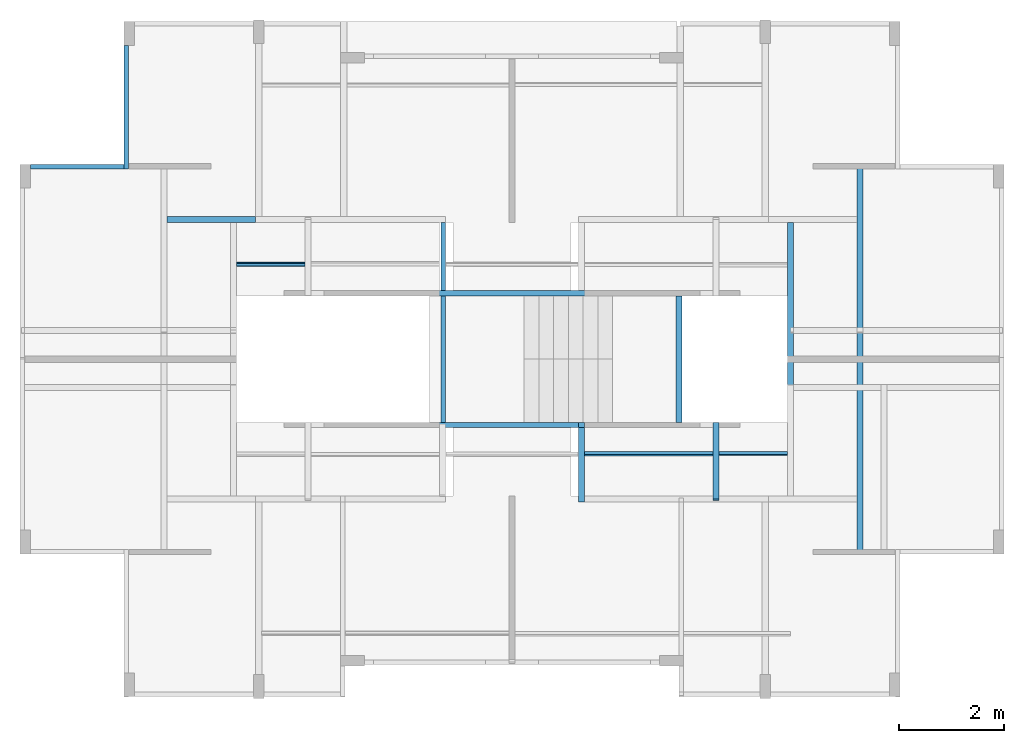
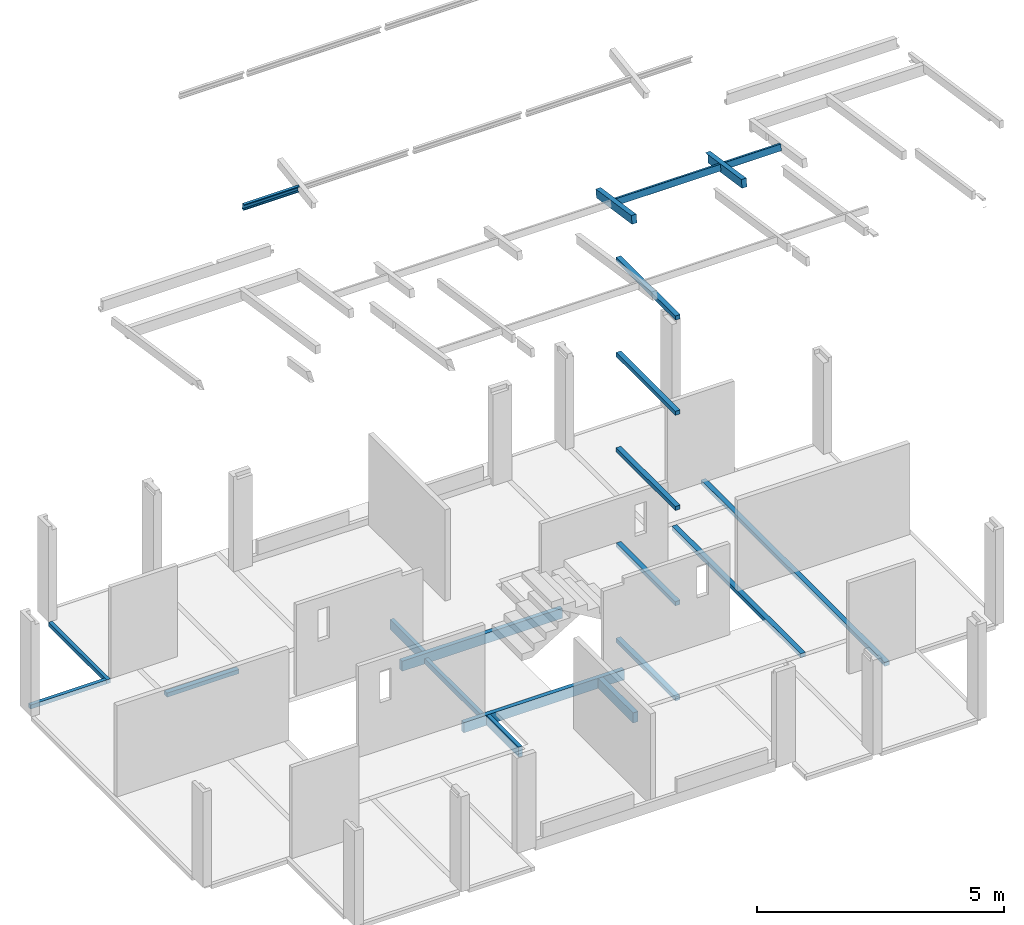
# One storey, part 3 of 9: 19 beams.
"""IFC4 building model written with IfcOpenShell, lengths in metres."""

from ifc_helpers import new_model, entity, si_unit, converted_unit, derived_unit, direction, frame, origin, place, context, subcontext, project, spatial, line, arc, indexed_curve, outline, extrude, source, transform, mapped, material, type_object, type_shapes, element, save


model = new_model("IFC4")

# Units and contexts
model_context = context("Model", 3, precision=1e-05, world=origin(), true_north=direction((6.123031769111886e-17, 1.0)))
body_context = subcontext(model_context, "Body", "Model", "MODEL_VIEW")
ifc_project = project(units=[si_unit("LENGTHUNIT", "METRE"), si_unit("AREAUNIT", "SQUARE_METRE"), si_unit("VOLUMEUNIT", "CUBIC_METRE"), converted_unit("PLANEANGLEUNIT", "DEGREE", entity("IfcRatioMeasure", 0.017453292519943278), si_unit("PLANEANGLEUNIT", "RADIAN"), dimensions=[0, 0, 0, 0, 0, 0, 0]), si_unit("MASSUNIT", "GRAM", prefix="KILO"), derived_unit("MASSDENSITYUNIT", [(si_unit("MASSUNIT", "GRAM", prefix="KILO"), 1), (si_unit("LENGTHUNIT", "METRE"), -3)]), derived_unit("IONCONCENTRATIONUNIT", [(si_unit("MASSUNIT", "GRAM", prefix="KILO"), 1), (si_unit("LENGTHUNIT", "METRE"), -3)]), derived_unit("MOMENTOFINERTIAUNIT", [(si_unit("LENGTHUNIT", "METRE"), 4)]), si_unit("TIMEUNIT", "SECOND"), si_unit("FREQUENCYUNIT", "HERTZ"), si_unit("THERMODYNAMICTEMPERATUREUNIT", "DEGREE_CELSIUS"), derived_unit("THERMALTRANSMITTANCEUNIT", [(si_unit("MASSUNIT", "GRAM", prefix="KILO"), 1), (si_unit("THERMODYNAMICTEMPERATUREUNIT", "KELVIN"), -1), (si_unit("TIMEUNIT", "SECOND"), -3)]), derived_unit("THERMALCONDUCTANCEUNIT", [(si_unit("MASSUNIT", "GRAM", prefix="KILO"), 1), (si_unit("THERMODYNAMICTEMPERATUREUNIT", "KELVIN"), -1), (si_unit("TIMEUNIT", "SECOND"), -3), (si_unit("LENGTHUNIT", "METRE"), 1)]), derived_unit("VOLUMETRICFLOWRATEUNIT", [(si_unit("LENGTHUNIT", "METRE"), 3), (si_unit("TIMEUNIT", "SECOND"), -1)]), derived_unit("MASSFLOWRATEUNIT", [(si_unit("MASSUNIT", "GRAM", prefix="KILO"), 1), (si_unit("TIMEUNIT", "SECOND"), -1)]), derived_unit("ROTATIONALFREQUENCYUNIT", [(si_unit("TIMEUNIT", "SECOND"), -1)]), si_unit("ELECTRICCURRENTUNIT", "AMPERE"), si_unit("ELECTRICVOLTAGEUNIT", "VOLT"), si_unit("POWERUNIT", "WATT"), si_unit("FORCEUNIT", "NEWTON", prefix="KILO"), si_unit("ILLUMINANCEUNIT", "LUX"), si_unit("LUMINOUSFLUXUNIT", "LUMEN"), si_unit("LUMINOUSINTENSITYUNIT", "CANDELA"), derived_unit("USERDEFINED", [(si_unit("MASSUNIT", "GRAM", prefix="KILO"), -1), (si_unit("LENGTHUNIT", "METRE"), -2), (si_unit("TIMEUNIT", "SECOND"), 3), (si_unit("LUMINOUSFLUXUNIT", "LUMEN"), 1)]), derived_unit("USERDEFINED", [(si_unit("MASSUNIT", "GRAM", prefix="KILO"), 1), (si_unit("TIMEUNIT", "SECOND"), -3), (si_unit("LENGTHUNIT", "METRE"), 3), (si_unit("ELECTRICCURRENTUNIT", "AMPERE"), -2)]), derived_unit("SOUNDPOWERUNIT", [(si_unit("MASSUNIT", "GRAM", prefix="KILO"), 1), (si_unit("TIMEUNIT", "SECOND"), -3), (si_unit("LENGTHUNIT", "METRE"), 2)]), derived_unit("SOUNDPRESSUREUNIT", [(si_unit("MASSUNIT", "GRAM", prefix="KILO"), 1), (si_unit("LENGTHUNIT", "METRE"), -1), (si_unit("TIMEUNIT", "SECOND"), -2)]), derived_unit("LINEARVELOCITYUNIT", [(si_unit("LENGTHUNIT", "METRE"), 1), (si_unit("TIMEUNIT", "SECOND"), -1)]), si_unit("PRESSUREUNIT", "PASCAL"), derived_unit("USERDEFINED", [(si_unit("MASSUNIT", "GRAM", prefix="KILO"), 1), (si_unit("LENGTHUNIT", "METRE"), -2), (si_unit("TIMEUNIT", "SECOND"), -2)]), derived_unit("LINEARFORCEUNIT", [(si_unit("MASSUNIT", "GRAM", prefix="KILO"), 1), (si_unit("TIMEUNIT", "SECOND"), -2)]), derived_unit("PLANARFORCEUNIT", [(si_unit("MASSUNIT", "GRAM", prefix="KILO"), 1), (si_unit("LENGTHUNIT", "METRE"), -1), (si_unit("TIMEUNIT", "SECOND"), -2)]), derived_unit("SPECIFICHEATCAPACITYUNIT", [(si_unit("THERMODYNAMICTEMPERATUREUNIT", "KELVIN"), -1), (si_unit("LENGTHUNIT", "METRE"), 2), (si_unit("TIMEUNIT", "SECOND"), -2)]), derived_unit("HEATINGVALUEUNIT", [(si_unit("LENGTHUNIT", "METRE"), 2), (si_unit("TIMEUNIT", "SECOND"), -2)]), derived_unit("VAPORPERMEABILITYUNIT", [(si_unit("LENGTHUNIT", "METRE"), -1), (si_unit("TIMEUNIT", "SECOND"), 1)]), derived_unit("DYNAMICVISCOSITYUNIT", [(si_unit("MASSUNIT", "GRAM", prefix="KILO"), 1), (si_unit("TIMEUNIT", "SECOND"), -1), (si_unit("LENGTHUNIT", "METRE"), -1)]), derived_unit("THERMALEXPANSIONCOEFFICIENTUNIT", [(si_unit("THERMODYNAMICTEMPERATUREUNIT", "KELVIN"), -1)]), derived_unit("MODULUSOFELASTICITYUNIT", [(si_unit("MASSUNIT", "GRAM", prefix="KILO"), 1), (si_unit("LENGTHUNIT", "METRE"), -1), (si_unit("TIMEUNIT", "SECOND"), -2)]), derived_unit("ISOTHERMALMOISTURECAPACITYUNIT", [(si_unit("LENGTHUNIT", "METRE"), 3), (si_unit("MASSUNIT", "GRAM", prefix="KILO"), -1)]), derived_unit("MOISTUREDIFFUSIVITYUNIT", [(si_unit("TIMEUNIT", "SECOND"), -1), (si_unit("LENGTHUNIT", "METRE"), 2)])], contexts=[model_context])

# Site, building, storey
site_placement = place(None, origin())
site = spatial("IfcSite", under=ifc_project, at=site_placement, Name="Default", CompositionType="ELEMENT")
building_placement = place(site_placement, origin())
building = spatial("IfcBuilding", under=site, at=building_placement, Name="Las nubes", CompositionType="ELEMENT")
storey_placement = place(building_placement, frame((0.0, 0.0, 2.3500000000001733)))
storey = spatial("IfcBuildingStorey", under=building, at=storey_placement, Name="PISO 2", CompositionType="ELEMENT", Elevation=2.3500000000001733)

# Beams
ifc_material_1 = material(Name="Concrete - Cast-in-Place Concrete - 35 MPa", Category="Materials")
beam_type_1 = type_object("IfcBeamType", Name="M_Concrete-Rectangular Beam:(0.10x0.25)", PredefinedType="BEAM", material=ifc_material_1)
shared_shape_1 = source(origin(), body_context, "Body", "SweptSolid", [
    extrude(outline(indexed_curve([(-0.12500000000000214, -0.04999999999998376), (0.12499999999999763, -0.05000000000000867), (0.1250000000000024, 0.04999999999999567), (-0.12499999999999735, 0.05000000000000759), (-0.12500000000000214, -0.04999999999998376)], self_intersect=False)), frame((7.447500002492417, -7.675000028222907, 2.2250000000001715), z_axis=(1.0, 0.0, 0.0), x_axis=(0.0, 0.0, -1.0)), (0.0, 0.0, 1.0), 3.745522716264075),
])
type_shapes(beam_type_1, [shared_shape_1])
beam_1_placement = place(storey_placement, frame((0.0, 0.0, -2.3500000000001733)))
element("IfcBeam", 1, at=beam_1_placement, inside=storey, type_object=beam_type_1, material=ifc_material_1, Name="M_Concrete-Rectangular Beam:(0.10x0.25)", ObjectType="M_Concrete-Rectangular Beam:(0.10x0.25)", PredefinedType="BEAM", context=body_context, shape_type="MappedRepresentation", body=[
    mapped(shared_shape_1, transform((0.0, 0.0, 0.0), scale=1.0)),
])
beam_type_2 = type_object("IfcBeamType", Name="M_Concrete-Rectangular Beam:(0.10x0.25)", PredefinedType="BEAM", material=ifc_material_1)
shared_shape_2 = source(origin(), body_context, "Body", "SweptSolid", [
    extrude(outline(indexed_curve([(-0.12500000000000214, -0.04999999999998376), (0.12499999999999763, -0.05000000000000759), (0.1250000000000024, 0.049999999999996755), (-0.12499999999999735, 0.05000000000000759), (-0.12500000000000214, -0.04999999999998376)], self_intersect=False)), frame((7.447500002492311, -5.175000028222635, 2.2250000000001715), z_axis=(1.0, 0.0, 0.0), x_axis=(0.0, 0.0, -1.0)), (0.0, 0.0, 1.0), 3.750000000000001),
])
type_shapes(beam_type_2, [shared_shape_2])
beam_2_placement = place(storey_placement, frame((0.0, 0.0, -2.3500000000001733)))
element("IfcBeam", 2, at=beam_2_placement, inside=storey, type_object=beam_type_2, material=ifc_material_1, Name="M_Concrete-Rectangular Beam:(0.10x0.25)", ObjectType="M_Concrete-Rectangular Beam:(0.10x0.25)", PredefinedType="BEAM", context=body_context, shape_type="MappedRepresentation", body=[
    mapped(shared_shape_2, transform((0.0, 0.0, 0.0), scale=1.0)),
])
ifc_material_2 = material(Name="Concrete, Cast In Situ", Category="Materials")
beam_type_3 = type_object("IfcBeamType", Name="M_Concrete-Rectangular Beam:(0.085x0.10)", PredefinedType="BEAM", material=ifc_material_2)
shared_shape_3 = source(origin(), body_context, "Body", "SweptSolid", [
    extrude(outline(indexed_curve([(-0.04250000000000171, -0.05), (0.04250000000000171, -0.05), (0.04250000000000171, 0.05), (-0.04250000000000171, 0.05), (-0.04250000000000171, -0.05)], self_intersect=False)), frame((1.9899999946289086, -2.810000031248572, 2.3000000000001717), z_axis=(0.0, 1.0, 0.0), x_axis=(-1.0, 0.0, 0.0)), (0.0, 0.0, 1.0), 2.3500000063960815),
])
type_shapes(beam_type_3, [shared_shape_3])
beam_3_placement = place(storey_placement, frame((0.0, 0.0, -2.3500000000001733)))
element("IfcBeam", 3, at=beam_3_placement, inside=storey, type_object=beam_type_3, material=ifc_material_2, Name="M_Concrete-Rectangular Beam:(0.085x0.10)", ObjectType="M_Concrete-Rectangular Beam:(0.085x0.10)", PredefinedType="BEAM", context=body_context, shape_type="MappedRepresentation", body=[
    mapped(shared_shape_3, transform((0.0, 0.0, 0.0), scale=1.0)),
])
beam_type_4 = type_object("IfcBeamType", Name="M_Concrete-Rectangular Beam:(0.085x0.25)", PredefinedType="BEAM", material=ifc_material_2)
shared_shape_4 = source(origin(), body_context, "Body", "SweptSolid", [
    extrude(outline(indexed_curve([(-0.04250000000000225, -0.125), (0.04250000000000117, -0.125), (0.04250000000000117, 0.12499999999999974), (-0.04250000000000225, 0.12499999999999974), (-0.04250000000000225, -0.125)], self_intersect=False)), frame((8.020000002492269, -5.125000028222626, 2.2250000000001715), z_axis=(0.0, 1.0, 0.0), x_axis=(-1.0, 0.0, 0.0)), (0.0, 0.0, 1.0), 1.3000000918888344),
    extrude(outline(indexed_curve([(-0.04250000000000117, -0.125), (0.04250000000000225, -0.125), (0.04250000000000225, 0.12499999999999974), (-0.04250000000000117, 0.12499999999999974), (-0.04250000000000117, -0.125)], self_intersect=False)), frame((8.020000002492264, -9.025000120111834, 2.2250000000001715), z_axis=(0.0, 1.0, 0.0), x_axis=(-1.0, 0.0, 0.0)), (0.0, 0.0, 1.0), 1.3000000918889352),
    extrude(outline(indexed_curve([(-0.04250000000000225, -0.06500000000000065), (0.04250000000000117, -0.06500000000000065), (0.042500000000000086, 0.06500000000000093), (-0.04250000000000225, 0.06500000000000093), (-0.04250000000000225, -0.06500000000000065)], self_intersect=False)), frame((8.020000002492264, -7.6250000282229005, 2.1650000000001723), z_axis=(0.0, 1.0, 0.0), x_axis=(-1.0, 0.0, 0.0)), (0.0, 0.0, 1.0), 2.4000000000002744),
])
type_shapes(beam_type_4, [shared_shape_4])
beam_4_placement = place(storey_placement, frame((0.0, 0.0, -2.3500000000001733)))
element("IfcBeam", 4, at=beam_4_placement, inside=storey, type_object=beam_type_4, material=ifc_material_2, Name="M_Concrete-Rectangular Beam:(0.085x0.25)", ObjectType="M_Concrete-Rectangular Beam:(0.085x0.25)", PredefinedType="BEAM", context=body_context, shape_type="MappedRepresentation", body=[
    mapped(shared_shape_4, transform((0.0, 0.0, 0.0), scale=1.0)),
])
beam_type_5 = type_object("IfcBeamType", Name="M_Concrete-Rectangular Beam:(0.115x0.25)", PredefinedType="BEAM", material=ifc_material_2)
shared_shape_5 = source(origin(), body_context, "Body", "SweptSolid", [
    extrude(outline(indexed_curve([(-0.05750000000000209, -0.125), (0.05750000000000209, -0.125), (0.05750000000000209, 0.12499999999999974), (-0.05750000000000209, 0.12499999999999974), (-0.05750000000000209, -0.125)], self_intersect=False)), frame((10.63999999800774, -9.140000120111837, 2.2250000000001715), z_axis=(0.0, 1.0, 0.0), x_axis=(-1.0, 0.0, 0.0)), (0.0, 0.0, 1.0), 1.4150000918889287),
])
type_shapes(beam_type_5, [shared_shape_5])
beam_5_placement = place(storey_placement, frame((0.0, 0.0, -2.3500000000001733)))
element("IfcBeam", 5, at=beam_5_placement, inside=storey, type_object=beam_type_5, material=ifc_material_2, Name="M_Concrete-Rectangular Beam:(0.115x0.25)", ObjectType="M_Concrete-Rectangular Beam:(0.115x0.25)", PredefinedType="BEAM", context=body_context, shape_type="MappedRepresentation", body=[
    mapped(shared_shape_5, transform((0.0, 0.0, 0.0), scale=1.0)),
])
beam_type_6 = type_object("IfcBeamType", Name="M_Concrete-Rectangular Beam:(0.115x0.10)", PredefinedType="BEAM", material=ifc_material_2)
shared_shape_6 = source(origin(), body_context, "Body", "SweptSolid", [
    extrude(outline(indexed_curve([(-0.05000000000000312, -0.057499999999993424), (0.049999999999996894, -0.057500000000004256), (0.05000000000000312, 0.057499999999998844), (-0.049999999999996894, 0.057500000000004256), (-0.05000000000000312, -0.057499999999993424)], self_intersect=False)), frame((4.452499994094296, -3.7675000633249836, 2.3000000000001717), z_axis=(-1.0, 0.0, 0.0), x_axis=(0.0, 0.0, -1.0)), (0.0, 0.0, 1.0), 1.6849989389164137),
])
type_shapes(beam_type_6, [shared_shape_6])
beam_6_placement = place(storey_placement, frame((0.0, 0.0, -2.3500000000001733)))
element("IfcBeam", 6, at=beam_6_placement, inside=storey, type_object=beam_type_6, material=ifc_material_2, Name="M_Concrete-Rectangular Beam:(0.115x0.10)", ObjectType="M_Concrete-Rectangular Beam:(0.115x0.10)", PredefinedType="BEAM", context=body_context, shape_type="MappedRepresentation", body=[
    mapped(shared_shape_6, transform((0.0, 0.0, 0.0), scale=1.0)),
])
beam_type_7 = type_object("IfcBeamType", Name="M_Concrete-Rectangular Beam:(0.115x0.10)", PredefinedType="BEAM", material=ifc_material_2)
shared_shape_7 = source(origin(), body_context, "Body", "SweptSolid", [
    extrude(outline(indexed_curve([(-0.057500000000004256, -0.05), (0.05750000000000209, -0.05), (0.05750000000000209, 0.05), (-0.05750000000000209, 0.05), (-0.057500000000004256, -0.05)], self_intersect=False)), frame((15.934998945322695, -10.14000003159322, 2.3000000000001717), z_axis=(0.0, 1.0, 0.0), x_axis=(-1.0, 0.0, 0.0)), (0.0, 0.0, 1.0), 7.430000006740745),
])
type_shapes(beam_type_7, [shared_shape_7])
beam_7_placement = place(storey_placement, frame((0.0, 0.0, -2.3500000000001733)))
element("IfcBeam", 7, at=beam_7_placement, inside=storey, type_object=beam_type_7, material=ifc_material_2, Name="M_Concrete-Rectangular Beam:(0.115x0.10)", ObjectType="M_Concrete-Rectangular Beam:(0.115x0.10)", PredefinedType="BEAM", context=body_context, shape_type="MappedRepresentation", body=[
    mapped(shared_shape_7, transform((0.0, 0.0, 0.0), scale=1.0)),
])
beam_type_8 = type_object("IfcBeamType", Name="M_Concrete-Rectangular Beam:(0.115x0.10)", PredefinedType="BEAM", material=ifc_material_2)
shared_shape_8 = source(origin(), body_context, "Body", "SweptSolid", [
    extrude(outline(indexed_curve([(-0.05750000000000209, -0.05), (0.05750000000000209, -0.05), (0.05750000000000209, 0.05), (-0.05750000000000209, 0.05), (-0.05750000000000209, -0.05)], self_intersect=False)), frame((14.615000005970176, -9.025000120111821, 2.3000000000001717), z_axis=(0.0, 1.0, 0.0), x_axis=(-1.0, 0.0, 0.0)), (0.0, 0.0, 1.0), 5.200000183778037),
])
type_shapes(beam_type_8, [shared_shape_8])
beam_8_placement = place(storey_placement, frame((0.0, 0.0, -2.3500000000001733)))
element("IfcBeam", 8, at=beam_8_placement, inside=storey, type_object=beam_type_8, material=ifc_material_2, Name="M_Concrete-Rectangular Beam:(0.115x0.10)", ObjectType="M_Concrete-Rectangular Beam:(0.115x0.10)", PredefinedType="BEAM", context=body_context, shape_type="MappedRepresentation", body=[
    mapped(shared_shape_8, transform((0.0, 0.0, 0.0), scale=1.0)),
])
beam_type_9 = type_object("IfcBeamType", Name="M_Concrete-Rectangular Beam:(0.085x0.10)", PredefinedType="BEAM", material=ifc_material_2)
shared_shape_9 = source(origin(), body_context, "Body", "SweptSolid", [
    extrude(outline(indexed_curve([(-0.050000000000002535, -0.042499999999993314), (0.04999999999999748, -0.04250000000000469), (0.050000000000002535, 0.04249999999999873), (-0.04999999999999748, 0.04250000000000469), (-0.050000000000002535, -0.042499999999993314)], self_intersect=False)), frame((0.17250000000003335, -2.7675000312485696, 2.3000000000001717), z_axis=(1.0, 0.0, 0.0), x_axis=(0.0, 0.0, -1.0)), (0.0, 0.0, 1.0), 1.7749999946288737),
])
type_shapes(beam_type_9, [shared_shape_9])
beam_9_placement = place(storey_placement, frame((0.0, 0.0, -2.3500000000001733)))
element("IfcBeam", 9, at=beam_9_placement, inside=storey, type_object=beam_type_9, material=ifc_material_2, Name="M_Concrete-Rectangular Beam:(0.085x0.10)", ObjectType="M_Concrete-Rectangular Beam:(0.085x0.10)", PredefinedType="BEAM", context=body_context, shape_type="MappedRepresentation", body=[
    mapped(shared_shape_9, transform((0.0, 0.0, 0.0), scale=1.0)),
])
beam_type_10 = type_object("IfcBeamType", Name="M_Concrete-Rectangular Beam:(0.115x0.20)", PredefinedType="BEAM", material=ifc_material_2)
shared_shape_10 = source(origin(), body_context, "Body", "SweptSolid", [
    extrude(outline(indexed_curve([(-0.1000000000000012, -0.05750000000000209), (0.09999999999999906, -0.05750000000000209), (0.09999999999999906, 0.05750000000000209), (-0.1000000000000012, 0.057499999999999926), (-0.1000000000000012, -0.05750000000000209)], self_intersect=False)), frame((10.639999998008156, -7.642358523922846, 14.267610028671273), z_axis=(0.0, -0.9889363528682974, 0.14834045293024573), x_axis=(0.0, -0.14834045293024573, -0.9889363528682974)), (0.0, 0.0, 1.0), 1.4562529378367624),
])
type_shapes(beam_type_10, [shared_shape_10])
beam_10_placement = place(storey_placement, frame((0.0, 0.0, -2.3500000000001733)))
element("IfcBeam", 10, at=beam_10_placement, inside=storey, type_object=beam_type_10, material=ifc_material_2, Name="M_Concrete-Rectangular Beam:(0.115x0.20)", ObjectType="M_Concrete-Rectangular Beam:(0.115x0.20)", PredefinedType="BEAM", context=body_context, shape_type="MappedRepresentation", body=[
    mapped(shared_shape_10, transform((0.0, 0.0, 0.0), scale=1.0)),
])
beam_type_11 = type_object("IfcBeamType", Name="M_Concrete-Rectangular Beam:(0.115x0.20)", PredefinedType="BEAM", material=ifc_material_2)
shared_shape_11 = source(origin(), body_context, "Body", "SweptSolid", [
    extrude(outline(indexed_curve([(-0.8503153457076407, -0.1170282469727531), (0.5523715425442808, -0.11702824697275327), (0.5246003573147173, 0.06811298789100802), (0.6236587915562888, 0.08297175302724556), (-0.8503153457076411, 0.082971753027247), (-0.8503153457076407, -0.1170282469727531)], self_intersect=False)), frame((13.142500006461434, -8.253900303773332, 14.376560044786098), z_axis=(1.0, 0.0, 0.0), x_axis=(0.0, 0.9889363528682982, -0.14834045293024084)), (0.0, 0.0, 1.0), 0.11500000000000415),
])
type_shapes(beam_type_11, [shared_shape_11])
beam_11_placement = place(storey_placement, frame((0.0, 0.0, -2.3500000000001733)))
element("IfcBeam", 11, at=beam_11_placement, inside=storey, type_object=beam_type_11, material=ifc_material_2, Name="M_Concrete-Rectangular Beam:(0.115x0.20)", ObjectType="M_Concrete-Rectangular Beam:(0.115x0.20)", PredefinedType="BEAM", context=body_context, shape_type="MappedRepresentation", body=[
    mapped(shared_shape_11, transform((0.0, 0.0, 0.0), scale=1.0)),
])
beam_type_12 = type_object("IfcBeamType", Name="M_Concrete-Rectangular Beam:(0.115x0.10)", PredefinedType="BEAM", material=ifc_material_2)
shared_shape_12 = source(origin(), body_context, "Body", "SweptSolid", [
    extrude(outline(indexed_curve([(-0.05750000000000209, -0.05), (0.05750000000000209, -0.05), (0.05750000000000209, 0.05), (-0.05750000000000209, 0.05), (-0.05750000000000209, -0.05)], self_intersect=False)), frame((12.50000000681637, -5.225000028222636, 1.1249999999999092), z_axis=(0.0, -1.0, 0.0), x_axis=(-1.0, 0.0, 0.0)), (0.0, 0.0, 1.0), 2.4000000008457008),
])
type_shapes(beam_type_12, [shared_shape_12])
beam_12_placement = place(storey_placement, frame((0.0, 0.0, -2.3500000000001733)))
element("IfcBeam", 12, at=beam_12_placement, inside=storey, type_object=beam_type_12, material=ifc_material_2, Name="M_Concrete-Rectangular Beam:(0.115x0.10)", ObjectType="M_Concrete-Rectangular Beam:(0.115x0.10)", PredefinedType="BEAM", context=body_context, shape_type="MappedRepresentation", body=[
    mapped(shared_shape_12, transform((0.0, 0.0, 0.0), scale=1.0)),
])
beam_type_13 = type_object("IfcBeamType", Name="M_Concrete-Rectangular Beam:(0.115x0.10)", PredefinedType="BEAM", material=ifc_material_2)
shared_shape_13 = source(origin(), body_context, "Body", "SweptSolid", [
    extrude(outline(indexed_curve([(-0.05750000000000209, -0.04999999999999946), (0.05750000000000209, -0.04999999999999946), (0.05750000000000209, 0.050000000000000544), (-0.05750000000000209, 0.04999999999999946), (-0.05750000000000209, -0.04999999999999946)], self_intersect=False)), frame((12.50000000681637, -5.225000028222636, 5.825000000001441), z_axis=(0.0, -1.0, 0.0), x_axis=(-1.0, 0.0, 0.0)), (0.0, 0.0, 1.0), 2.4000000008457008),
])
type_shapes(beam_type_13, [shared_shape_13])
beam_13_placement = place(storey_placement, frame((0.0, 0.0, -2.3500000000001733)))
element("IfcBeam", 13, at=beam_13_placement, inside=storey, type_object=beam_type_13, material=ifc_material_2, Name="M_Concrete-Rectangular Beam:(0.115x0.10)", ObjectType="M_Concrete-Rectangular Beam:(0.115x0.10)", PredefinedType="BEAM", context=body_context, shape_type="MappedRepresentation", body=[
    mapped(shared_shape_13, transform((0.0, 0.0, 0.0), scale=1.0)),
])
beam_type_14 = type_object("IfcBeamType", Name="M_Concrete-Rectangular Beam:(0.115x0.10)", PredefinedType="BEAM", material=ifc_material_2)
shared_shape_14 = source(origin(), body_context, "Body", "SweptSolid", [
    extrude(outline(indexed_curve([(-0.05750000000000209, -0.04999999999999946), (0.05750000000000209, -0.04999999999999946), (0.05750000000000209, 0.050000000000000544), (-0.05750000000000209, 0.04999999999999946), (-0.05750000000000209, -0.04999999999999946)], self_intersect=False)), frame((12.50000000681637, -5.225000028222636, 8.175000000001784), z_axis=(0.0, -1.0, 0.0), x_axis=(-1.0, 0.0, 0.0)), (0.0, 0.0, 1.0), 2.4000000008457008),
])
type_shapes(beam_type_14, [shared_shape_14])
beam_14_placement = place(storey_placement, frame((0.0, 0.0, -2.3500000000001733)))
element("IfcBeam", 14, at=beam_14_placement, inside=storey, type_object=beam_type_14, material=ifc_material_2, Name="M_Concrete-Rectangular Beam:(0.115x0.10)", ObjectType="M_Concrete-Rectangular Beam:(0.115x0.10)", PredefinedType="BEAM", context=body_context, shape_type="MappedRepresentation", body=[
    mapped(shared_shape_14, transform((0.0, 0.0, 0.0), scale=1.0)),
])
beam_type_15 = type_object("IfcBeamType", Name="M_Concrete-Rectangular Beam:(0.115x0.10)", PredefinedType="BEAM", material=ifc_material_2)
shared_shape_15 = source(origin(), body_context, "Body", "SweptSolid", [
    extrude(outline(indexed_curve([(-0.05750000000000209, -0.050000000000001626), (0.05750000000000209, -0.04999999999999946), (0.05750000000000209, 0.04999999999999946), (-0.05750000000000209, 0.04999999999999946), (-0.05750000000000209, -0.050000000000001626)], self_intersect=False)), frame((12.50000000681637, -5.225000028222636, 10.525000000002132), z_axis=(0.0, -1.0, 0.0), x_axis=(-1.0, 0.0, 0.0)), (0.0, 0.0, 1.0), 2.4000000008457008),
])
type_shapes(beam_type_15, [shared_shape_15])
beam_15_placement = place(storey_placement, frame((0.0, 0.0, -2.3500000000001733)))
element("IfcBeam", 15, at=beam_15_placement, inside=storey, type_object=beam_type_15, material=ifc_material_2, Name="M_Concrete-Rectangular Beam:(0.115x0.10)", ObjectType="M_Concrete-Rectangular Beam:(0.115x0.10)", PredefinedType="BEAM", context=body_context, shape_type="MappedRepresentation", body=[
    mapped(shared_shape_15, transform((0.0, 0.0, 0.0), scale=1.0)),
])
beam_type_16 = type_object("IfcBeamType", Name="M_Concrete-Rectangular Beam:(0.115x0.10)", PredefinedType="BEAM", material=ifc_material_2)
shared_shape_16 = source(origin(), body_context, "Body", "SweptSolid", [
    extrude(outline(indexed_curve([(-0.05750000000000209, -0.05), (0.05750000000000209, -0.05), (0.05750000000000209, 0.05), (-0.05750000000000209, 0.05), (-0.05750000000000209, -0.05)], self_intersect=False)), frame((12.50000000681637, -5.225000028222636, 3.47500000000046), z_axis=(0.0, -1.0, 0.0), x_axis=(-1.0, 0.0, 0.0)), (0.0, 0.0, 1.0), 2.4000000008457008),
])
type_shapes(beam_type_16, [shared_shape_16])
beam_16_placement = place(storey_placement, frame((0.0, 0.0, -2.3500000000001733)))
element("IfcBeam", 16, at=beam_16_placement, inside=storey, type_object=beam_type_16, material=ifc_material_2, Name="M_Concrete-Rectangular Beam:(0.115x0.10)", ObjectType="M_Concrete-Rectangular Beam:(0.115x0.10)", PredefinedType="BEAM", context=body_context, shape_type="MappedRepresentation", body=[
    mapped(shared_shape_16, transform((0.0, 0.0, 0.0), scale=1.0)),
])
ifc_material_3 = material(Name="Steel - 300+", Category="Materials")
beam_type_17 = type_object("IfcBeamType", Name="AUS-C Purlin:CR-1", PredefinedType="BEAM", material=ifc_material_3)
shared_shape_17 = source(origin(), body_context, "Body", "SweptSolid", [
    extrude(outline(indexed_curve([(-0.0761499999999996, -0.03615000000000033), (0.07334999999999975, -0.036150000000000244), (0.07829974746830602, -0.03409974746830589), (0.08035000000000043, -0.02914999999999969), (0.08035000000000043, 0.020350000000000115), (0.07932487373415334, 0.022824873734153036), (0.07685000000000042, 0.023850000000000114), (0.06034999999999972, 0.023850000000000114), (0.06034999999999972, 0.02185000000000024), (0.07684999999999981, 0.02185000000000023), (0.07791066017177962, 0.02141066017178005), (0.07834999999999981, 0.020350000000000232), (0.07834999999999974, -0.029150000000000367), (0.07688553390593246, -0.032685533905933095), (0.0733499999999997, -0.03415000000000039), (-0.0761500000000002, -0.03415000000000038), (-0.07721066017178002, -0.033710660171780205), (-0.0776500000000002, -0.03265000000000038), (-0.0776500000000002, 0.02035000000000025), (-0.07721066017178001, 0.021410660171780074), (-0.0761500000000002, 0.02185000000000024), (-0.059650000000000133, 0.02185000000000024), (-0.059650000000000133, 0.023850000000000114), (-0.0761499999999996, 0.023850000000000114), (-0.07862487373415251, 0.02282487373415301), (-0.07964999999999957, 0.020350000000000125), (-0.07964999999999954, -0.032650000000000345), (-0.07862487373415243, -0.03512487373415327)], segments=[line(1, 2), arc(2, 3, 4), line(4, 5), arc(5, 6, 7), line(7, 8, 9, 10), arc(10, 11, 12), line(12, 13), arc(13, 14, 15), line(15, 16), arc(16, 17, 18), line(18, 19), arc(19, 20, 21), line(21, 22, 23, 24), arc(24, 25, 26), line(26, 27), arc(27, 28, 1)], self_intersect=False)), frame((-1.221751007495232, 0.03415000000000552, 0.00034999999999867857), z_axis=(1.0, 0.0, 0.0), x_axis=(0.0, 0.0, -1.0)), (0.0, 0.0, 1.0), 2.4416127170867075),
])
type_shapes(beam_type_17, [shared_shape_17])
beam_17_placement = place(storey_placement, frame((11.92000000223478, -8.25149981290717, 12.029204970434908), z_axis=(0.0, 0.14834045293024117, 0.9889363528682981), x_axis=(1.0, 0.0, 0.0)))
element("IfcBeam", 17, at=beam_17_placement, inside=storey, type_object=beam_type_17, material=ifc_material_3, Name="AUS-C Purlin:CR-1", ObjectType="AUS-C Purlin:CR-1", PredefinedType="BEAM", context=body_context, shape_type="MappedRepresentation", body=[
    mapped(shared_shape_17, transform((0.0, 0.0, 0.0), scale=1.0)),
])
beam_type_18 = type_object("IfcBeamType", Name="AUS-C Purlin:CR-1", PredefinedType="BEAM", material=ifc_material_3)
shared_shape_18 = source(origin(), body_context, "Body", "SweptSolid", [
    extrude(outline(indexed_curve([(-0.07614999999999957, -0.03615000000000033), (0.07334999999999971, -0.036150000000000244), (0.07829974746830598, -0.03409974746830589), (0.08035000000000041, -0.02914999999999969), (0.08035000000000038, 0.020350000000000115), (0.0793248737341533, 0.022824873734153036), (0.07685000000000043, 0.023850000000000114), (0.06034999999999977, 0.023850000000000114), (0.06034999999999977, 0.02185000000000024), (0.07684999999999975, 0.02185000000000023), (0.07791066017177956, 0.021410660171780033), (0.07834999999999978, 0.020350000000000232), (0.07834999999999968, -0.029150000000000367), (0.07688553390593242, -0.032685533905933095), (0.07334999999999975, -0.03415000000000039), (-0.07615000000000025, -0.03415000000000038), (-0.07721066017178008, -0.033710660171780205), (-0.07765000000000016, -0.03265000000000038), (-0.07765000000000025, 0.02035000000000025), (-0.07721066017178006, 0.021410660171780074), (-0.07615000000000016, 0.02185000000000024), (-0.05965000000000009, 0.02185000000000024), (-0.05965000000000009, 0.023850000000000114), (-0.07614999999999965, 0.023850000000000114), (-0.07862487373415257, 0.02282487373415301), (-0.07964999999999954, 0.020350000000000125), (-0.0796499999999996, -0.032650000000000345), (-0.07862487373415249, -0.03512487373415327)], segments=[line(1, 2), arc(2, 3, 4), line(4, 5), arc(5, 6, 7), line(7, 8, 9, 10), arc(10, 11, 12), line(12, 13), arc(13, 14, 15), line(15, 16), arc(16, 17, 18), line(18, 19), arc(19, 20, 21), line(21, 22, 23, 24), arc(24, 25, 26), line(26, 27), arc(27, 28, 1)], self_intersect=False)), frame((-0.6481257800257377, 0.03415000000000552, 0.0003499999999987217), z_axis=(1.0, 0.0, 0.0), x_axis=(0.0, 0.0, -1.0)), (0.0, 0.0, 1.0), 1.2959719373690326),
])
type_shapes(beam_type_18, [shared_shape_18])
beam_18_placement = place(storey_placement, frame((13.907500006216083, -8.245185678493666, 12.02825785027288), z_axis=(0.0, 0.14834045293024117, 0.9889363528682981), x_axis=(1.0, 0.0, 0.0)))
element("IfcBeam", 18, at=beam_18_placement, inside=storey, type_object=beam_type_18, material=ifc_material_3, Name="AUS-C Purlin:CR-1", ObjectType="AUS-C Purlin:CR-1", PredefinedType="BEAM", context=body_context, shape_type="MappedRepresentation", body=[
    mapped(shared_shape_18, transform((0.0, 0.0, 0.0), scale=1.0)),
])
beam_type_19 = type_object("IfcBeamType", Name="AUS-C Purlin:CR-1", PredefinedType="BEAM", material=ifc_material_3)
shared_shape_19 = source(origin(), body_context, "Body", "SweptSolid", [
    extrude(outline(indexed_curve([(-0.07614999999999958, -0.023850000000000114), (-0.05965000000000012, -0.023850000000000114), (-0.05965000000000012, -0.02185000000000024), (-0.07615000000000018, -0.02185000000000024), (-0.07721066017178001, -0.021410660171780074), (-0.07765000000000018, -0.020350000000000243), (-0.0776500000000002, 0.03265000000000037), (-0.07721066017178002, 0.033710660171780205), (-0.07615000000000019, 0.03415000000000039), (0.07334999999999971, 0.03415000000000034), (0.07688553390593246, 0.03268553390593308), (0.07834999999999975, 0.029150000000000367), (0.07834999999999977, -0.02035000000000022), (0.07791066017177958, -0.02141066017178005), (0.07684999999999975, -0.02185000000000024), (0.060349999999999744, -0.02185000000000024), (0.060349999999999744, -0.023850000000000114), (0.0768500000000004, -0.023850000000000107), (0.07932487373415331, -0.022824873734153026), (0.08035000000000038, -0.020350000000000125), (0.08035000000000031, 0.029149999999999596), (0.07829974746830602, 0.034099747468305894), (0.0733499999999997, 0.03615000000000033), (-0.07614999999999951, 0.036150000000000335), (-0.07862487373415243, 0.03512487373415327), (-0.07964999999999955, 0.032650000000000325), (-0.07964999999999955, -0.020350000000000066), (-0.0786248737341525, -0.022824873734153)], segments=[line(1, 2, 3, 4), arc(4, 5, 6), line(6, 7), arc(7, 8, 9), line(9, 10), arc(10, 11, 12), line(12, 13), arc(13, 14, 15), line(15, 16, 17, 18), arc(18, 19, 20), line(20, 21), arc(21, 22, 23), line(23, 24), arc(24, 25, 26), line(26, 27), arc(27, 28, 1)], self_intersect=False)), frame((-0.6492510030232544, -0.03415000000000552, 0.0003499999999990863), z_axis=(1.0, 0.0, 0.0), x_axis=(0.0, 0.0, -1.0)), (0.0, 0.0, 1.0), 1.29734561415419),
])
type_shapes(beam_type_19, [shared_shape_19])
beam_19_placement = place(storey_placement, frame((4.737499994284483, -4.592044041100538, 12.030173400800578), z_axis=(0.0, -0.14834045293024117, 0.9889363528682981), x_axis=(1.0, 0.0, 0.0)))
element("IfcBeam", 19, at=beam_19_placement, inside=storey, type_object=beam_type_19, material=ifc_material_3, Name="AUS-C Purlin:CR-1", ObjectType="AUS-C Purlin:CR-1", PredefinedType="BEAM", context=body_context, shape_type="MappedRepresentation", body=[
    mapped(shared_shape_19, transform((0.0, 0.0, 0.0), scale=1.0)),
])

save(model, "model.ifc")
